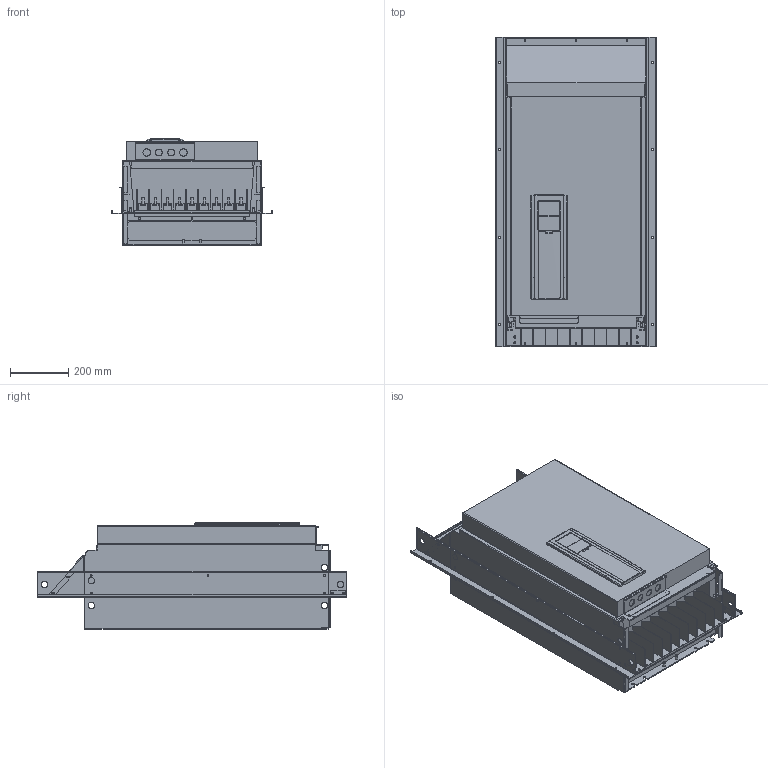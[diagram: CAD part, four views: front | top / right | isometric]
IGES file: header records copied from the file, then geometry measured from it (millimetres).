
Global section: file name: C:\temp\3D mechanics (extra.vacon)\Agileen\MR9\MR9_Simplified_Model_IP00_Flange_Mount_igs.igs; native system: NX V6.0; preprocessor: SIEMENS UGS NX 6.0; date: 20121214.124831; units: millimetre
Bounding box: 550 x 1060 x 365.09 mm (x, y, z)
Surface area: 3384080.5 mm2 (no closed solid volume)
Topology: 0 solids, 0 shells, 1626 faces, 10235 edges, 10141 vertices
Faces by surface type: bspline 1626
